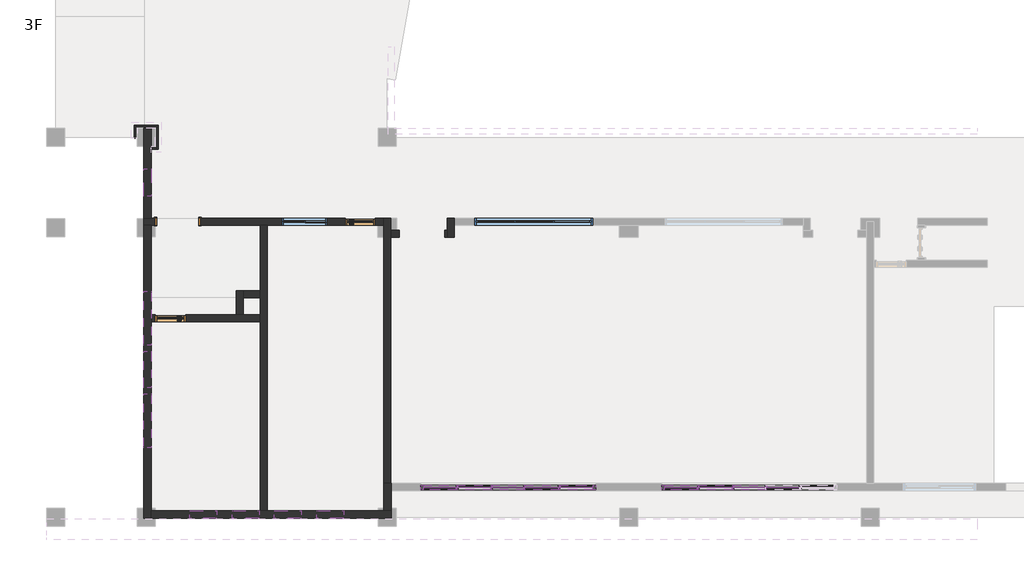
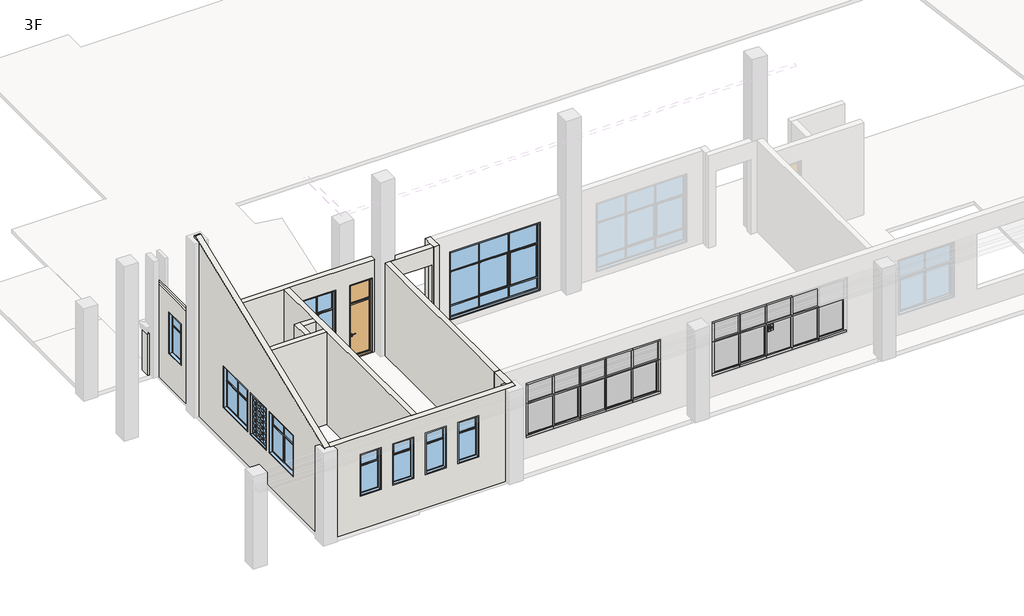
# One storey, part 1 of 9: 44 members, 16 walls, 15 plates, 10 windows, 3 doors.
"""IFC4 building model written with IfcOpenShell, lengths in millimetres."""

from ifc_helpers import new_model, si_unit, frame, origin, place, context, project, spatial, polyline, outline, extrude, faceted_brep, transform, mapped, element, save
from components import dk1_dk1_83e99b34, m2_m2_dfb05117, m3_m3_68d9ec90, member_7564be38, member_1f4d75dd, member_0b7842ad, member_163d5e45, member_ffafc35e, member_2b011958, member_9c26cac3, member_6c42befd, member_a374fdad, plate_f4dba16c, plate_1cc4df2b, plate_4fa5932a, plate_00f9c624, plate_18a10205, plate_942ffe46, window_f5fa71fb, lc2_lc2_631be3da, lc2_lc2_cf207e28, lc5_lc5_223d64ff, lc6_lc6_03a52bd1, lc7_lc7_62699857, lc7a_lc7a_525a1188

model = new_model("IFC4")

# Units and contexts
model_context = context("Model", 3, world=origin())
ifc_project = project(units=[si_unit("LENGTHUNIT", "METRE", prefix="MILLI")], contexts=[model_context])

# Site, building, storey
site = spatial("IfcSite", under=ifc_project)
building = spatial("IfcBuilding", under=site)
storey = spatial("IfcBuildingStorey", under=building, Name="3F", Elevation=8400.0)

# Doors
placement = place(None, origin())
dk1_dk1_shape = dk1_dk1_83e99b34(model_context)
element("IfcDoor", 1, ObjectType="DK1 : DK1", at=placement, inside=storey, context=model_context, shape_type="MappedRepresentation", body=[
    mapped(dk1_dk1_shape, transform((4050.0, 9800.276907, 8400.0), x_axis=(-1.0, 0.0, 0.0), y_axis=(0.0, -1.0, 0.0), z_axis=(0.0, 0.0, 1.0))),
])
m2_m2_shape = m2_m2_dfb05117(model_context)
element("IfcDoor", 2, ObjectType="M2 : M2", at=placement, inside=storey, context=model_context, shape_type="MappedRepresentation", body=[
    mapped(m2_m2_shape, transform((10100.0, 9800.276907, 8400.0), x_axis=(-1.0, 0.0, 0.0), y_axis=(0.0, -1.0, 0.0), z_axis=(0.0, 0.0, 1.0))),
])
m3_m3_shape = m3_m3_68d9ec90(model_context)
element("IfcDoor", 3, ObjectType="M3 : M3", at=placement, inside=storey, context=model_context, shape_type="MappedRepresentation", body=[
    mapped(m3_m3_shape, transform((3809.9999988, 6600.7769017, 8400.0), x_axis=(1.0, 0.0, 0.0), y_axis=(0.0, 1.0, 0.0), z_axis=(0.0, 0.0, 1.0))),
])

# Members
member_shape = member_7564be38(model_context)
element("IfcMember", 4, ObjectType="矩形竖梃 : 教学楼 – 矩形竖梃 – 100x150mm", at=placement, inside=storey, context=model_context, shape_type="MappedRepresentation", body=[
    mapped(member_shape, transform((17899.9999993, 990.0, 11800.0), x_axis=(0.0, 0.0, 1.0), y_axis=(0.0, -1.0, 0.0), z_axis=(1.0, 0.0, 0.0))),
])
element("IfcMember", 5, ObjectType="矩形竖梃 : 教学楼 – 矩形竖梃 – 100x150mm", at=placement, inside=storey, context=model_context, shape_type="MappedRepresentation", body=[
    mapped(member_shape, transform((12099.9999993, 990.0, 9300.0), x_axis=(0.0, 0.0, -1.0), y_axis=(0.0, -1.0, 0.0), z_axis=(-1.0, 0.0, 0.0))),
])
element("IfcMember", 6, ObjectType="矩形竖梃 : 教学楼 – 矩形竖梃 – 100x150mm", at=placement, inside=storey, context=model_context, shape_type="MappedRepresentation", body=[
    mapped(member_shape, transform((20100.0, 990.0, 9300.0), x_axis=(0.0, 0.0, -1.0), y_axis=(0.0, -1.0, 0.0), z_axis=(-1.0, 0.0, 0.0))),
])
member_2_shape = member_1f4d75dd(model_context)
element("IfcMember", 7, ObjectType="矩形竖梃 : 教学楼 – 矩形竖梃 – 50x150mm", at=placement, inside=storey, context=model_context, shape_type="MappedRepresentation", body=[
    mapped(member_2_shape, transform((14449.9999993, 990.0, 9400.0), x_axis=(1.0, 0.0, 0.0), y_axis=(0.0, -1.0, 0.0), z_axis=(0.0, 0.0, -1.0))),
])
element("IfcMember", 8, ObjectType="矩形竖梃 : 教学楼 – 矩形竖梃 – 50x150mm", at=placement, inside=storey, context=model_context, shape_type="MappedRepresentation", body=[
    mapped(member_2_shape, transform((15549.9999993, 990.0, 9400.0), x_axis=(1.0, 0.0, 0.0), y_axis=(0.0, -1.0, 0.0), z_axis=(0.0, 0.0, -1.0))),
])
element("IfcMember", 9, ObjectType="矩形竖梃 : 教学楼 – 矩形竖梃 – 50x150mm", at=placement, inside=storey, context=model_context, shape_type="MappedRepresentation", body=[
    mapped(member_2_shape, transform((22450.0, 990.0, 9400.0), x_axis=(1.0, 0.0, 0.0), y_axis=(0.0, -1.0, 0.0), z_axis=(0.0, 0.0, -1.0))),
])
element("IfcMember", 10, ObjectType="矩形竖梃 : 教学楼 – 矩形竖梃 – 50x150mm", at=placement, inside=storey, context=model_context, shape_type="MappedRepresentation", body=[
    mapped(member_2_shape, transform((23550.0, 990.0, 9400.0), x_axis=(1.0, 0.0, 0.0), y_axis=(0.0, -1.0, 0.0), z_axis=(0.0, 0.0, -1.0))),
])
member_3_shape = member_0b7842ad(model_context)
element("IfcMember", 11, ObjectType="矩形竖梃 : 教学楼 – 矩形竖梃 – 50x150mm", at=placement, inside=storey, context=model_context, shape_type="MappedRepresentation", body=[
    mapped(member_3_shape, transform((13299.9999993, 990.0, 10850.0), x_axis=(0.0, 0.0, 1.0), y_axis=(0.0, -1.0, 0.0), z_axis=(1.0, 0.0, 0.0))),
])
element("IfcMember", 12, ObjectType="矩形竖梃 : 教学楼 – 矩形竖梃 – 50x150mm", at=placement, inside=storey, context=model_context, shape_type="MappedRepresentation", body=[
    mapped(member_3_shape, transform((21300.0, 990.0, 10850.0), x_axis=(0.0, 0.0, 1.0), y_axis=(0.0, -1.0, 0.0), z_axis=(1.0, 0.0, 0.0))),
])
member_4_shape = member_163d5e45(model_context)
element("IfcMember", 13, ObjectType="矩形竖梃 : 教学楼 – 矩形竖梃 – 50x150mm", at=placement, inside=storey, context=model_context, shape_type="MappedRepresentation", body=[
    mapped(member_4_shape, transform((14449.9999993, 990.0, 10850.0), x_axis=(0.0, 0.0, 1.0), y_axis=(0.0, -1.0, 0.0), z_axis=(1.0, 0.0, 0.0))),
])
element("IfcMember", 14, ObjectType="矩形竖梃 : 教学楼 – 矩形竖梃 – 50x150mm", at=placement, inside=storey, context=model_context, shape_type="MappedRepresentation", body=[
    mapped(member_4_shape, transform((16699.9999993, 990.0, 10850.0), x_axis=(0.0, 0.0, 1.0), y_axis=(0.0, -1.0, 0.0), z_axis=(1.0, 0.0, 0.0))),
])
element("IfcMember", 15, ObjectType="矩形竖梃 : 教学楼 – 矩形竖梃 – 50x150mm", at=placement, inside=storey, context=model_context, shape_type="MappedRepresentation", body=[
    mapped(member_4_shape, transform((22450.0, 990.0, 10850.0), x_axis=(0.0, 0.0, 1.0), y_axis=(0.0, -1.0, 0.0), z_axis=(1.0, 0.0, 0.0))),
])
element("IfcMember", 16, ObjectType="矩形竖梃 : 教学楼 – 矩形竖梃 – 50x150mm", at=placement, inside=storey, context=model_context, shape_type="MappedRepresentation", body=[
    mapped(member_4_shape, transform((24700.0, 990.0, 10850.0), x_axis=(0.0, 0.0, 1.0), y_axis=(0.0, -1.0, 0.0), z_axis=(1.0, 0.0, 0.0))),
])
element("IfcMember", 17, ObjectType="矩形竖梃 : 教学楼 – 矩形竖梃 – 50x150mm", at=placement, inside=storey, context=model_context, shape_type="MappedRepresentation", body=[
    mapped(member_3_shape, transform((15549.9999993, 990.0, 10850.0), x_axis=(0.0, 0.0, 1.0), y_axis=(0.0, -1.0, 0.0), z_axis=(1.0, 0.0, 0.0))),
])
element("IfcMember", 18, ObjectType="矩形竖梃 : 教学楼 – 矩形竖梃 – 50x150mm", at=placement, inside=storey, context=model_context, shape_type="MappedRepresentation", body=[
    mapped(member_3_shape, transform((23550.0, 990.0, 10850.0), x_axis=(0.0, 0.0, 1.0), y_axis=(0.0, -1.0, 0.0), z_axis=(1.0, 0.0, 0.0))),
])
element("IfcMember", 19, ObjectType="矩形竖梃 : 教学楼 – 矩形竖梃 – 50x150mm", at=placement, inside=storey, context=model_context, shape_type="MappedRepresentation", body=[
    mapped(member_3_shape, transform((17799.9999993, 990.0, 10850.0), x_axis=(0.0, 0.0, 1.0), y_axis=(0.0, -1.0, 0.0), z_axis=(1.0, 0.0, 0.0))),
])
member_5_shape = member_ffafc35e(model_context)
element("IfcMember", 20, ObjectType="矩形竖梃 : 教学楼 – 矩形竖梃 – 100x150mm", at=placement, inside=storey, context=model_context, shape_type="MappedRepresentation", body=[
    mapped(member_5_shape, transform((13299.9999993, 990.0, 9300.0), x_axis=(0.0, 0.0, -1.0), y_axis=(0.0, -1.0, 0.0), z_axis=(-1.0, 0.0, 0.0))),
])
element("IfcMember", 21, ObjectType="矩形竖梃 : 教学楼 – 矩形竖梃 – 100x150mm", at=placement, inside=storey, context=model_context, shape_type="MappedRepresentation", body=[
    mapped(member_5_shape, transform((21300.0, 990.0, 9300.0), x_axis=(0.0, 0.0, -1.0), y_axis=(0.0, -1.0, 0.0), z_axis=(-1.0, 0.0, 0.0))),
])
member_6_shape = member_2b011958(model_context)
element("IfcMember", 22, ObjectType="矩形竖梃 : 教学楼 – 矩形竖梃 – 100x150mm", at=placement, inside=storey, context=model_context, shape_type="MappedRepresentation", body=[
    mapped(member_6_shape, transform((14449.9999993, 990.0, 9300.0), x_axis=(0.0, 0.0, -1.0), y_axis=(0.0, -1.0, 0.0), z_axis=(-1.0, 0.0, 0.0))),
])
element("IfcMember", 23, ObjectType="矩形竖梃 : 教学楼 – 矩形竖梃 – 100x150mm", at=placement, inside=storey, context=model_context, shape_type="MappedRepresentation", body=[
    mapped(member_6_shape, transform((22450.0, 990.0, 9300.0), x_axis=(0.0, 0.0, -1.0), y_axis=(0.0, -1.0, 0.0), z_axis=(-1.0, 0.0, 0.0))),
])
element("IfcMember", 24, ObjectType="矩形竖梃 : 教学楼 – 矩形竖梃 – 100x150mm", at=placement, inside=storey, context=model_context, shape_type="MappedRepresentation", body=[
    mapped(member_5_shape, transform((15549.9999993, 990.0, 9300.0), x_axis=(0.0, 0.0, -1.0), y_axis=(0.0, -1.0, 0.0), z_axis=(-1.0, 0.0, 0.0))),
])
element("IfcMember", 25, ObjectType="矩形竖梃 : 教学楼 – 矩形竖梃 – 100x150mm", at=placement, inside=storey, context=model_context, shape_type="MappedRepresentation", body=[
    mapped(member_5_shape, transform((23550.0, 990.0, 9300.0), x_axis=(0.0, 0.0, -1.0), y_axis=(0.0, -1.0, 0.0), z_axis=(-1.0, 0.0, 0.0))),
])
element("IfcMember", 26, ObjectType="矩形竖梃 : 教学楼 – 矩形竖梃 – 100x150mm", at=placement, inside=storey, context=model_context, shape_type="MappedRepresentation", body=[
    mapped(member_shape, transform((16699.9999993, 990.0, 9300.0), x_axis=(0.0, 0.0, -1.0), y_axis=(0.0, -1.0, 0.0), z_axis=(-1.0, 0.0, 0.0))),
])
element("IfcMember", 27, ObjectType="矩形竖梃 : 教学楼 – 矩形竖梃 – 100x150mm", at=placement, inside=storey, context=model_context, shape_type="MappedRepresentation", body=[
    mapped(member_shape, transform((24700.0, 990.0, 9300.0), x_axis=(0.0, 0.0, -1.0), y_axis=(0.0, -1.0, 0.0), z_axis=(-1.0, 0.0, 0.0))),
])
element("IfcMember", 28, ObjectType="矩形竖梃 : 教学楼 – 矩形竖梃 – 100x150mm", at=placement, inside=storey, context=model_context, shape_type="MappedRepresentation", body=[
    mapped(member_shape, transform((13299.9999993, 990.0, 11800.0), x_axis=(0.0, 0.0, 1.0), y_axis=(0.0, -1.0, 0.0), z_axis=(1.0, 0.0, 0.0))),
])
element("IfcMember", 29, ObjectType="矩形竖梃 : 教学楼 – 矩形竖梃 – 100x150mm", at=placement, inside=storey, context=model_context, shape_type="MappedRepresentation", body=[
    mapped(member_shape, transform((21300.0, 990.0, 11800.0), x_axis=(0.0, 0.0, 1.0), y_axis=(0.0, -1.0, 0.0), z_axis=(1.0, 0.0, 0.0))),
])
element("IfcMember", 30, ObjectType="矩形竖梃 : 教学楼 – 矩形竖梃 – 100x150mm", at=placement, inside=storey, context=model_context, shape_type="MappedRepresentation", body=[
    mapped(member_5_shape, transform((14449.9999993, 990.0, 11800.0), x_axis=(0.0, 0.0, 1.0), y_axis=(0.0, -1.0, 0.0), z_axis=(1.0, 0.0, 0.0))),
])
element("IfcMember", 31, ObjectType="矩形竖梃 : 教学楼 – 矩形竖梃 – 100x150mm", at=placement, inside=storey, context=model_context, shape_type="MappedRepresentation", body=[
    mapped(member_5_shape, transform((16699.9999993, 990.0, 11800.0), x_axis=(0.0, 0.0, 1.0), y_axis=(0.0, -1.0, 0.0), z_axis=(1.0, 0.0, 0.0))),
])
element("IfcMember", 32, ObjectType="矩形竖梃 : 教学楼 – 矩形竖梃 – 100x150mm", at=placement, inside=storey, context=model_context, shape_type="MappedRepresentation", body=[
    mapped(member_5_shape, transform((22450.0, 990.0, 11800.0), x_axis=(0.0, 0.0, 1.0), y_axis=(0.0, -1.0, 0.0), z_axis=(1.0, 0.0, 0.0))),
])
element("IfcMember", 33, ObjectType="矩形竖梃 : 教学楼 – 矩形竖梃 – 100x150mm", at=placement, inside=storey, context=model_context, shape_type="MappedRepresentation", body=[
    mapped(member_6_shape, transform((15549.9999993, 990.0, 11800.0), x_axis=(0.0, 0.0, 1.0), y_axis=(0.0, -1.0, 0.0), z_axis=(1.0, 0.0, 0.0))),
])
element("IfcMember", 34, ObjectType="矩形竖梃 : 教学楼 – 矩形竖梃 – 100x150mm", at=placement, inside=storey, context=model_context, shape_type="MappedRepresentation", body=[
    mapped(member_6_shape, transform((23550.0, 990.0, 11800.0), x_axis=(0.0, 0.0, 1.0), y_axis=(0.0, -1.0, 0.0), z_axis=(1.0, 0.0, 0.0))),
])
member_7_shape = member_9c26cac3(model_context)
element("IfcMember", 35, ObjectType="矩形竖梃 : 教学楼 – 矩形竖梃 – 50x150mm", at=placement, inside=storey, context=model_context, shape_type="MappedRepresentation", body=[
    mapped(member_7_shape, transform((13299.9999993, 990.0, 10875.0), x_axis=(1.0, 0.0, 0.0), y_axis=(0.0, -1.0, 0.0), z_axis=(0.0, 0.0, -1.0))),
])
element("IfcMember", 36, ObjectType="矩形竖梃 : 教学楼 – 矩形竖梃 – 50x150mm", at=placement, inside=storey, context=model_context, shape_type="MappedRepresentation", body=[
    mapped(member_7_shape, transform((14449.9999993, 990.0, 10875.0), x_axis=(1.0, 0.0, 0.0), y_axis=(0.0, -1.0, 0.0), z_axis=(0.0, 0.0, -1.0))),
])
element("IfcMember", 37, ObjectType="矩形竖梃 : 教学楼 – 矩形竖梃 – 50x150mm", at=placement, inside=storey, context=model_context, shape_type="MappedRepresentation", body=[
    mapped(member_7_shape, transform((15549.9999993, 990.0, 10875.0), x_axis=(1.0, 0.0, 0.0), y_axis=(0.0, -1.0, 0.0), z_axis=(0.0, 0.0, -1.0))),
])
element("IfcMember", 38, ObjectType="矩形竖梃 : 教学楼 – 矩形竖梃 – 50x150mm", at=placement, inside=storey, context=model_context, shape_type="MappedRepresentation", body=[
    mapped(member_7_shape, transform((16699.9999993, 990.0, 10875.0), x_axis=(1.0, 0.0, 0.0), y_axis=(0.0, -1.0, 0.0), z_axis=(0.0, 0.0, -1.0))),
])
element("IfcMember", 39, ObjectType="矩形竖梃 : 教学楼 – 矩形竖梃 – 50x150mm", at=placement, inside=storey, context=model_context, shape_type="MappedRepresentation", body=[
    mapped(member_7_shape, transform((21300.0, 990.0, 10875.0), x_axis=(1.0, 0.0, 0.0), y_axis=(0.0, -1.0, 0.0), z_axis=(0.0, 0.0, -1.0))),
])
element("IfcMember", 40, ObjectType="矩形竖梃 : 教学楼 – 矩形竖梃 – 50x150mm", at=placement, inside=storey, context=model_context, shape_type="MappedRepresentation", body=[
    mapped(member_7_shape, transform((22450.0, 990.0, 10875.0), x_axis=(1.0, 0.0, 0.0), y_axis=(0.0, -1.0, 0.0), z_axis=(0.0, 0.0, -1.0))),
])
element("IfcMember", 41, ObjectType="矩形竖梃 : 教学楼 – 矩形竖梃 – 50x150mm", at=placement, inside=storey, context=model_context, shape_type="MappedRepresentation", body=[
    mapped(member_7_shape, transform((23550.0, 990.0, 10875.0), x_axis=(1.0, 0.0, 0.0), y_axis=(0.0, -1.0, 0.0), z_axis=(0.0, 0.0, -1.0))),
])
member_8_shape = member_6c42befd(model_context)
element("IfcMember", 42, ObjectType="矩形竖梃 : 教学楼 – 矩形竖梃 – 100x150mm", at=placement, inside=storey, context=model_context, shape_type="MappedRepresentation", body=[
    mapped(member_8_shape, transform((12099.9999993, 990.0, 11700.0), x_axis=(-1.0, 0.0, 0.0), y_axis=(0.0, -1.0, 0.0), z_axis=(0.0, 0.0, 1.0))),
])
element("IfcMember", 43, ObjectType="矩形竖梃 : 教学楼 – 矩形竖梃 – 100x150mm", at=placement, inside=storey, context=model_context, shape_type="MappedRepresentation", body=[
    mapped(member_8_shape, transform((20100.0, 990.0, 11700.0), x_axis=(-1.0, 0.0, 0.0), y_axis=(0.0, -1.0, 0.0), z_axis=(0.0, 0.0, 1.0))),
])
member_9_shape = member_a374fdad(model_context)
element("IfcMember", 44, ObjectType="矩形竖梃 : 教学楼 – 矩形竖梃 – 100x150mm", at=placement, inside=storey, context=model_context, shape_type="MappedRepresentation", body=[
    mapped(member_9_shape, transform((17899.9999993, 990.0, 9400.0), x_axis=(1.0, 0.0, 0.0), y_axis=(0.0, -1.0, 0.0), z_axis=(0.0, 0.0, -1.0))),
])
element("IfcMember", 45, ObjectType="矩形竖梃 : 教学楼 – 矩形竖梃 – 100x150mm", at=placement, inside=storey, context=model_context, shape_type="MappedRepresentation", body=[
    mapped(member_8_shape, transform((17899.9999993, 990.0, 10850.0), x_axis=(1.0, 0.0, 0.0), y_axis=(0.0, -1.0, 0.0), z_axis=(0.0, 0.0, -1.0))),
])
element("IfcMember", 46, ObjectType="矩形竖梃 : 教学楼 – 矩形竖梃 – 100x150mm", at=placement, inside=storey, context=model_context, shape_type="MappedRepresentation", body=[
    mapped(member_9_shape, transform((12099.9999993, 990.0, 10850.0), x_axis=(-1.0, 0.0, 0.0), y_axis=(0.0, -1.0, 0.0), z_axis=(0.0, 0.0, 1.0))),
])
element("IfcMember", 47, ObjectType="矩形竖梃 : 教学楼 – 矩形竖梃 – 100x150mm", at=placement, inside=storey, context=model_context, shape_type="MappedRepresentation", body=[
    mapped(member_9_shape, transform((20100.0, 990.0, 10850.0), x_axis=(-1.0, 0.0, 0.0), y_axis=(0.0, -1.0, 0.0), z_axis=(0.0, 0.0, 1.0))),
])

# Plates
plate_shape = plate_f4dba16c(model_context)
element("IfcPlate", 48, ObjectType="系统嵌板 : 玻璃", at=placement, inside=storey, context=model_context, shape_type="MappedRepresentation", body=[
    mapped(plate_shape, transform((14999.9999993, 990.0, 9400.0), x_axis=(1.0, 0.0, 0.0), y_axis=(0.0, 1.0, 0.0), z_axis=(0.0, 0.0, 1.0))),
])
plate_2_shape = plate_1cc4df2b(model_context)
element("IfcPlate", 49, ObjectType="系统嵌板 : 玻璃", at=placement, inside=storey, context=model_context, shape_type="MappedRepresentation", body=[
    mapped(plate_2_shape, transform((12737.4999993, 990.0, 10875.0), x_axis=(1.0, 0.0, 0.0), y_axis=(0.0, 1.0, 0.0), z_axis=(0.0, 0.0, 1.0))),
])
element("IfcPlate", 50, ObjectType="系统嵌板 : 玻璃", at=placement, inside=storey, context=model_context, shape_type="MappedRepresentation", body=[
    mapped(plate_2_shape, transform((17262.4999993, 990.0, 10875.0), x_axis=(1.0, 0.0, 0.0), y_axis=(0.0, 1.0, 0.0), z_axis=(0.0, 0.0, 1.0))),
])
element("IfcPlate", 51, ObjectType="系统嵌板 : 玻璃", at=placement, inside=storey, context=model_context, shape_type="MappedRepresentation", body=[
    mapped(plate_2_shape, transform((20737.5, 990.0, 10875.0), x_axis=(1.0, 0.0, 0.0), y_axis=(0.0, 1.0, 0.0), z_axis=(0.0, 0.0, 1.0))),
])
plate_3_shape = plate_4fa5932a(model_context)
element("IfcPlate", 52, ObjectType="系统嵌板 : 玻璃", at=placement, inside=storey, context=model_context, shape_type="MappedRepresentation", body=[
    mapped(plate_3_shape, transform((13874.9999993, 990.0, 10875.0), x_axis=(1.0, 0.0, 0.0), y_axis=(0.0, 1.0, 0.0), z_axis=(0.0, 0.0, 1.0))),
])
element("IfcPlate", 53, ObjectType="系统嵌板 : 玻璃", at=placement, inside=storey, context=model_context, shape_type="MappedRepresentation", body=[
    mapped(plate_3_shape, transform((16124.9999993, 990.0, 10875.0), x_axis=(1.0, 0.0, 0.0), y_axis=(0.0, 1.0, 0.0), z_axis=(0.0, 0.0, 1.0))),
])
element("IfcPlate", 54, ObjectType="系统嵌板 : 玻璃", at=placement, inside=storey, context=model_context, shape_type="MappedRepresentation", body=[
    mapped(plate_3_shape, transform((21875.0, 990.0, 10875.0), x_axis=(1.0, 0.0, 0.0), y_axis=(0.0, 1.0, 0.0), z_axis=(0.0, 0.0, 1.0))),
])
element("IfcPlate", 55, ObjectType="系统嵌板 : 玻璃", at=placement, inside=storey, context=model_context, shape_type="MappedRepresentation", body=[
    mapped(plate_3_shape, transform((24125.0, 990.0, 10875.0), x_axis=(1.0, 0.0, 0.0), y_axis=(0.0, 1.0, 0.0), z_axis=(0.0, 0.0, 1.0))),
])
plate_4_shape = plate_00f9c624(model_context)
element("IfcPlate", 56, ObjectType="系统嵌板 : 玻璃", at=placement, inside=storey, context=model_context, shape_type="MappedRepresentation", body=[
    mapped(plate_4_shape, transform((14999.9999993, 990.0, 10875.0), x_axis=(1.0, 0.0, 0.0), y_axis=(0.0, 1.0, 0.0), z_axis=(0.0, 0.0, 1.0))),
])
element("IfcPlate", 57, ObjectType="系统嵌板 : 玻璃", at=placement, inside=storey, context=model_context, shape_type="MappedRepresentation", body=[
    mapped(plate_4_shape, transform((23000.0, 990.0, 10875.0), x_axis=(1.0, 0.0, 0.0), y_axis=(0.0, 1.0, 0.0), z_axis=(0.0, 0.0, 1.0))),
])
plate_5_shape = plate_18a10205(model_context)
element("IfcPlate", 58, ObjectType="教学楼 - 窗嵌板：双扇推拉窗 : 教学楼 - 窗嵌板：双扇推拉窗", at=placement, inside=storey, context=model_context, shape_type="MappedRepresentation", body=[
    mapped(plate_5_shape, transform((13312.4999993, 990.0, 9400.0), x_axis=(1.0, 0.0, 0.0), y_axis=(0.0, 1.0, 0.0), z_axis=(0.0, 0.0, 1.0))),
])
element("IfcPlate", 59, ObjectType="教学楼 - 窗嵌板：双扇推拉窗 : 教学楼 - 窗嵌板：双扇推拉窗", at=placement, inside=storey, context=model_context, shape_type="MappedRepresentation", body=[
    mapped(plate_5_shape, transform((21312.5, 990.0, 9400.0), x_axis=(1.0, 0.0, 0.0), y_axis=(0.0, 1.0, 0.0), z_axis=(0.0, 0.0, 1.0))),
])
element("IfcPlate", 60, ObjectType="教学楼 - 窗嵌板：双扇推拉窗 : 教学楼 - 窗嵌板：双扇推拉窗", at=placement, inside=storey, context=model_context, shape_type="MappedRepresentation", body=[
    mapped(plate_5_shape, transform((16687.4999993, 990.0, 9400.0), x_axis=(1.0, 0.0, 0.0), y_axis=(0.0, 1.0, 0.0), z_axis=(0.0, 0.0, 1.0))),
])
element("IfcPlate", 61, ObjectType="教学楼 - 窗嵌板：双扇推拉窗 : 教学楼 - 窗嵌板：双扇推拉窗", at=placement, inside=storey, context=model_context, shape_type="MappedRepresentation", body=[
    mapped(plate_5_shape, transform((24687.5, 990.0, 9400.0), x_axis=(1.0, 0.0, 0.0), y_axis=(0.0, 1.0, 0.0), z_axis=(0.0, 0.0, 1.0))),
])
plate_6_shape = plate_942ffe46(model_context)
element("IfcPlate", 62, ObjectType="教学楼 - 窗嵌板：外贴消防通道 : 教学楼 - 窗嵌板：外贴消防通道", at=placement, inside=storey, context=model_context, shape_type="MappedRepresentation", body=[
    mapped(plate_6_shape, transform((23000.0, 990.0, 9400.0), x_axis=(1.0, 0.0, 0.0), y_axis=(0.0, 1.0, 0.0), z_axis=(0.0, 0.0, 1.0))),
])

# Walls
element("IfcWall", 63, ObjectType="教学楼 – 饰面砖外墙 – 200mm", at=placement, inside=storey, context=model_context, shape_type="Brep", body=[
    faceted_brep([(2917.0000002, 12900.0, 8400.0), (2917.0000002, 12300.0, 8400.0), (2917.0000002, 9917.276907, 8400.0), (2917.0000002, 9917.276907, 12600.0), (2917.0000002, 12900.0, 12600.0), (2917.0000002, 10649.6954608, 11800.0), (2917.0000002, 10649.6954608, 9900.0), (2917.0000002, 11549.6954608, 9900.0), (2917.0000002, 11549.6954608, 11800.0), (3167.0000002, 9917.276907, 8400.0), (3167.0000002, 12200.0, 8400.0), (3167.0000002, 12250.0, 8400.0), (3167.0000002, 12300.0, 8400.0), (3167.0000002, 12900.0, 8400.0), (3167.0000002, 12900.0, 12480.0), (3167.0000002, 9917.276907, 12480.0), (3167.0000002, 10649.6954608, 9900.0), (3167.0000002, 10649.6954608, 11800.0), (3167.0000002, 11549.6954608, 11800.0), (3167.0000002, 11549.6954608, 9900.0), (3000.0, 9917.276907, 12600.0), (3000.0, 12900.0, 12600.0), (3000.0, 12900.0, 12480.0), (3000.0, 9917.276907, 12480.0)], [[[0, 1, 2, 3, 4], [5, 6, 7, 8]], [[9, 10, 11, 12, 13, 14, 15], [16, 17, 18, 19]], [[2, 1, 0, 13, 12, 11, 10, 9]], [[4, 3, 20, 21]], [[0, 4, 21, 22, 14, 13]], [[17, 16, 6, 5]], [[18, 17, 5, 8]], [[19, 18, 8, 7]], [[16, 19, 7, 6]], [[3, 2, 9, 15, 23, 20]], [[22, 23, 15, 14]], [[23, 22, 21, 20]]]),
])
element("IfcWall", 64, ObjectType="教学楼 – 饰面砖外墙 – 200mm", at=placement, inside=storey, context=model_context, shape_type="Brep", body=[
    faceted_brep([(3167.0000002, -32.6954639, 8400.0), (3300.0, -32.6954639, 8400.0), (10700.0, -32.6954639, 8400.0), (11133.0, -32.6954639, 8400.0), (11133.0, -32.6954639, 12600.0), (10700.0, -32.6954639, 12600.0), (3300.0, -32.6954639, 12600.0), (3167.0000002, -32.6954639, 12600.0), (3167.0000002, -32.6954639, 12586.8799436), (9549.9999969, -32.6954639, 9900.0), (8649.9999969, -32.6954639, 9900.0), (8649.9999969, -32.6954639, 11800.0), (9549.9999969, -32.6954639, 11800.0), (8149.9999969, -32.6954639, 9900.0), (7249.9999969, -32.6954639, 9900.0), (7249.9999969, -32.6954639, 11800.0), (8149.9999969, -32.6954639, 11800.0), (6749.9999993, -32.6954639, 9900.0), (5849.9999993, -32.6954639, 9900.0), (5849.9999993, -32.6954639, 11800.0), (6749.9999993, -32.6954639, 11800.0), (5349.9999993, -32.6954639, 9900.0), (4449.9999993, -32.6954639, 9900.0), (4449.9999993, -32.6954639, 11800.0), (5349.9999993, -32.6954639, 11800.0), (3167.0000002, 217.3045361, 8400.0), (3167.0000002, 217.3045361, 12600.0), (3300.0, 217.3045361, 12600.0), (6783.0000003, 217.3045361, 12600.0), (7017.0000003, 217.3045361, 12600.0), (10700.0, 217.3045361, 12600.0), (10883.0, 217.3045361, 12600.0), (11133.0, 217.3045361, 12600.0), (11133.0, 217.3045361, 8400.0), (10883.0, 217.3045361, 8400.0), (10700.0, 217.3045361, 8400.0), (7017.0000003, 217.3045361, 8400.0), (6783.0000003, 217.3045361, 8400.0), (3300.0, 217.3045361, 8400.0), (9549.9999969, 217.3045361, 9900.0), (9549.9999969, 217.3045361, 11800.0), (8649.9999969, 217.3045361, 11800.0), (8649.9999969, 217.3045361, 9900.0), (8149.9999969, 217.3045361, 9900.0), (8149.9999969, 217.3045361, 11800.0), (7249.9999969, 217.3045361, 11800.0), (7249.9999969, 217.3045361, 9900.0), (6749.9999993, 217.3045361, 9900.0), (6749.9999993, 217.3045361, 11800.0), (5849.9999993, 217.3045361, 11800.0), (5849.9999993, 217.3045361, 9900.0), (5349.9999993, 217.3045361, 9900.0), (5349.9999993, 217.3045361, 11800.0), (4449.9999993, 217.3045361, 11800.0), (4449.9999993, 217.3045361, 9900.0), (3167.0000002, 0.1070174, 12600.0)], [[[0, 1, 2, 3, 4, 5, 6, 7, 8], [9, 10, 11, 12], [13, 14, 15, 16], [17, 18, 19, 20], [21, 22, 23, 24]], [[25, 26, 27, 28, 29, 30, 31, 32, 33, 34, 35, 36, 37, 38], [39, 40, 41, 42], [43, 44, 45, 46], [47, 48, 49, 50], [51, 52, 53, 54]], [[3, 2, 1, 0, 25, 38, 37, 36, 35, 34, 33]], [[7, 6, 5, 4, 32, 31, 30, 29, 28, 27, 26, 55]], [[0, 8, 7, 55, 26, 25]], [[4, 3, 33, 32]], [[40, 39, 9, 12]], [[41, 40, 12, 11]], [[42, 41, 11, 10]], [[39, 42, 10, 9]], [[44, 43, 13, 16]], [[45, 44, 16, 15]], [[46, 45, 15, 14]], [[43, 46, 14, 13]], [[48, 47, 17, 20]], [[49, 48, 20, 19]], [[50, 49, 19, 18]], [[47, 50, 18, 17]], [[52, 51, 21, 24]], [[53, 52, 24, 23]], [[54, 53, 23, 22]], [[51, 54, 22, 21]]]),
])
element("IfcWall", 65, ObjectType="教学楼 – 饰面砖外墙 – 200mm", at=placement, inside=storey, context=model_context, shape_type="Brep", body=[
    faceted_brep([(11133.0, 217.3045361, 8400.0), (11133.0, 300.0, 8400.0), (11133.0, 875.0, 8400.0), (11133.0, 1125.0, 8400.0), (11133.0, 1125.0, 12600.0), (11133.0, 875.0, 12600.0), (11133.0, 300.0, 12600.0), (11133.0, 217.3045361, 12600.0), (10883.0, 217.3045361, 8400.0), (10883.0, 217.3045361, 12600.0), (10883.0, 300.0, 12600.0), (10883.0, 1125.0, 12600.0), (10883.0, 1125.0, 8400.0), (10883.0, 300.0, 8400.0), (11117.0, 1125.0, 8400.0), (11117.0, 1125.0, 12600.0)], [[[0, 1, 2, 3, 4, 5, 6, 7]], [[8, 9, 10, 11, 12, 13]], [[3, 2, 1, 0, 8, 13, 12, 14]], [[7, 6, 5, 4, 15, 11, 10, 9]], [[0, 7, 9, 8]], [[4, 3, 14, 12, 11, 15]]]),
])
element("IfcWall", 66, ObjectType="教学楼 – 涂料内墙 – 200mm", at=placement, inside=storey, context=model_context, shape_type="Brep", body=[
    faceted_brep([(11117.0, 1125.0, 8400.0), (11117.0, 9283.0, 8400.0), (11117.0, 9283.2768988, 8400.0), (11117.0, 9517.2768988, 8400.0), (11117.0, 9917.0, 8400.0), (11117.0, 9917.276907, 8400.0), (11117.0, 9917.276907, 12600.0), (11117.0, 9917.0, 12600.0), (11117.0, 9517.2768988, 12600.0), (11117.0, 9283.2768988, 12600.0), (11117.0, 9283.0, 12600.0), (11117.0, 1125.0, 12600.0), (10883.0, 1125.0, 8400.0), (10883.0, 1125.0, 12600.0), (10883.0, 9283.0, 12600.0), (10883.0, 9683.276907, 12600.0), (10883.0, 9917.276907, 12600.0), (10883.0, 9917.276907, 8400.0), (10883.0, 9683.276907, 8400.0), (10883.0, 9283.0, 8400.0)], [[[0, 1, 2, 3, 4, 5, 6, 7, 8, 9, 10, 11]], [[12, 13, 14, 15, 16, 17, 18, 19]], [[5, 4, 3, 2, 1, 0, 12, 19, 18, 17]], [[11, 10, 9, 8, 7, 6, 16, 15, 14, 13]], [[6, 5, 17, 16]], [[0, 11, 13, 12]]]),
])
element("IfcWall", 67, ObjectType="教学楼 – 涂料内墙 – 200mm", at=placement, inside=storey, context=model_context, shape_type="Brep", body=[
    faceted_brep([(7017.0000003, 217.3045361, 8400.0), (7017.0000003, 9683.276907, 8400.0), (7017.0000003, 9683.276907, 12600.0), (7017.0000003, 217.3045361, 12600.0), (6783.0000003, 217.3045361, 8400.0), (6783.0000003, 217.3045361, 12600.0), (6783.0000003, 6483.7769017, 12600.0), (6783.0000003, 6717.7769017, 12600.0), (6783.0000003, 7283.7768988, 12600.0), (6783.0000003, 7517.7768988, 12600.0), (6783.0000003, 9683.276907, 12600.0), (6783.0000003, 9683.276907, 8400.0), (6783.0000003, 7517.7768988, 8400.0), (6783.0000003, 7283.7768988, 8400.0), (6783.0000003, 6717.7769017, 8400.0), (6783.0000003, 6483.7769017, 8400.0)], [[[0, 1, 2, 3]], [[4, 5, 6, 7, 8, 9, 10, 11, 12, 13, 14, 15]], [[1, 0, 4, 15, 14, 13, 12, 11]], [[3, 2, 10, 9, 8, 7, 6, 5]], [[2, 1, 11, 10]], [[0, 3, 5, 4]]]),
])
element("IfcWall", 68, ObjectType="教学楼 – 涂料内墙 – 200mm", at=placement, inside=storey, context=model_context, shape_type="Brep", body=[
    faceted_brep([(12982.9999996, 9917.3045359, 8400.0), (12982.9999996, 9517.2768988, 8400.0), (12982.9999996, 9283.2768988, 8400.0), (12982.9999996, 9283.2768988, 12600.0), (12982.9999996, 9517.2768988, 12600.0), (12982.9999996, 9917.3045359, 12600.0), (13216.9999996, 9917.3045359, 8400.0), (13216.9999996, 9917.3045359, 12600.0), (13216.9999996, 9683.3045359, 12600.0), (13216.9999996, 9283.2768988, 12600.0), (13216.9999996, 9283.2768988, 8400.0), (13216.9999996, 9683.3045359, 8400.0)], [[[0, 1, 2, 3, 4, 5]], [[6, 7, 8, 9, 10, 11]], [[2, 1, 0, 6, 11, 10]], [[5, 4, 3, 9, 8, 7]], [[3, 2, 10, 9]], [[0, 5, 7, 6]]]),
])
element("IfcWall", 69, ObjectType="教学楼 – 涂料内墙 – 200mm", at=placement, inside=storey, context=model_context, shape_type="Brep", body=[
    faceted_brep([(11117.0, 9517.2768988, 12600.0), (11317.0, 9517.2768988, 12600.0), (12982.9999996, 9517.2768988, 12600.0), (12982.9999996, 9517.2768988, 8400.0), (12900.0000009, 9517.2768988, 8400.0), (12900.0000009, 9517.2768988, 11800.0), (11400.0000009, 9517.2768988, 11800.0), (11400.0000009, 9517.2768988, 8400.0), (11317.0, 9517.2768988, 8400.0), (11117.0, 9517.2768988, 8400.0), (12982.9999996, 9283.2768988, 12600.0), (11317.0, 9283.2768988, 12600.0), (11117.0, 9283.2768988, 12600.0), (11117.0, 9283.2768988, 8400.0), (11317.0, 9283.2768988, 8400.0), (11400.0000009, 9283.2768988, 8400.0), (11400.0000009, 9283.2768988, 11800.0), (12900.0000009, 9283.2768988, 11800.0), (12900.0000009, 9283.2768988, 8400.0), (12982.9999996, 9283.2768988, 8400.0)], [[[0, 1, 2, 3, 4, 5, 6, 7, 8, 9]], [[10, 11, 12, 13, 14, 15, 16, 17, 18, 19]], [[3, 19, 18, 4]], [[13, 9, 8, 7, 15, 14]], [[2, 1, 0, 12, 11, 10]], [[3, 2, 10, 19]], [[0, 9, 13, 12]], [[17, 5, 4, 18]], [[5, 17, 16, 6]], [[6, 16, 15, 7]]]),
])
element("IfcWall", 70, ObjectType="教学楼 – 涂料内墙 – 200mm", at=placement, inside=storey, context=model_context, shape_type="Brep", body=[
    faceted_brep([(10883.0, 9683.276907, 12600.0), (10683.0, 9683.276907, 12600.0), (7017.0000003, 9683.276907, 12600.0), (6783.0000003, 9683.276907, 12600.0), (3300.0, 9683.276907, 12600.0), (3167.0000002, 9683.276907, 12600.0), (2917.0000002, 9683.276907, 12600.0), (2917.0000002, 9683.276907, 8400.0), (3167.0000002, 9683.276907, 8400.0), (3300.0, 9683.276907, 8400.0), (3300.0, 9683.276907, 10800.0), (4800.0, 9683.276907, 10800.0), (4800.0, 9683.276907, 8400.0), (6783.0000003, 9683.276907, 8400.0), (7017.0000003, 9683.276907, 8400.0), (9600.0, 9683.276907, 8400.0), (9600.0, 9683.276907, 11800.0), (10600.0, 9683.276907, 11800.0), (10600.0, 9683.276907, 8400.0), (10683.0, 9683.276907, 8400.0), (10883.0, 9683.276907, 8400.0), (9000.0000037, 9683.276907, 8700.0), (7500.0000037, 9683.276907, 8700.0), (7500.0000037, 9683.276907, 11800.0), (9000.0000037, 9683.276907, 11800.0), (2917.0000002, 9917.276907, 12600.0), (3167.0000002, 9917.276907, 12600.0), (10883.0, 9917.276907, 12600.0), (10883.0, 9917.276907, 8400.0), (10600.0, 9917.276907, 8400.0), (10600.0, 9917.276907, 11800.0), (9600.0, 9917.276907, 11800.0), (9600.0, 9917.276907, 8400.0), (4800.0, 9917.276907, 8400.0), (4800.0, 9917.276907, 10800.0), (3300.0, 9917.276907, 10800.0), (3300.0, 9917.276907, 8400.0), (3167.0000002, 9917.276907, 8400.0), (2917.0000002, 9917.276907, 8400.0), (9000.0000037, 9917.276907, 8700.0), (9000.0000037, 9917.276907, 11800.0), (7500.0000037, 9917.276907, 11800.0), (7500.0000037, 9917.276907, 8700.0), (2917.0000002, 9900.0, 8400.0), (2917.0000002, 9900.0, 12600.0)], [[[0, 1, 2, 3, 4, 5, 6, 7, 8, 9, 10, 11, 12, 13, 14, 15, 16, 17, 18, 19, 20], [21, 22, 23, 24]], [[25, 26, 27, 28, 29, 30, 31, 32, 33, 34, 35, 36, 37, 38], [39, 40, 41, 42]], [[28, 20, 19, 18, 29]], [[12, 33, 32, 15, 14, 13]], [[7, 43, 38, 37, 36, 9, 8]], [[6, 5, 4, 3, 2, 1, 0, 27, 26, 25, 44]], [[0, 20, 28, 27]], [[7, 6, 44, 25, 38, 43]], [[35, 10, 9, 36]], [[10, 35, 34, 11]], [[11, 34, 33, 12]], [[31, 16, 15, 32]], [[16, 31, 30, 17]], [[17, 30, 29, 18]], [[40, 39, 21, 24]], [[41, 40, 24, 23]], [[42, 41, 23, 22]], [[39, 42, 22, 21]]]),
])
element("IfcWall", 71, ObjectType="教学楼 – 涂料内墙 – 200mm", at=placement, inside=storey, context=model_context, shape_type="Brep", body=[
    faceted_brep([(3167.0000002, 6717.7769017, 12600.0), (5983.0000019, 6717.7769017, 12600.0), (6217.0000019, 6717.7769017, 12600.0), (6783.0000003, 6717.7769017, 12600.0), (6783.0000003, 6717.7769017, 8400.0), (6217.0000019, 6717.7769017, 8400.0), (5983.0000019, 6717.7769017, 8400.0), (4309.9999988, 6717.7769017, 8400.0), (4309.9999988, 6717.7769017, 10700.0), (3309.9999988, 6717.7769017, 10700.0), (3309.9999988, 6717.7769017, 8400.0), (3167.0000002, 6717.7769017, 8400.0), (6783.0000003, 6483.7769017, 12600.0), (3167.0000002, 6483.7769017, 12600.0), (3167.0000002, 6483.7769017, 8400.0), (3309.9999988, 6483.7769017, 8400.0), (3309.9999988, 6483.7769017, 10700.0), (4309.9999988, 6483.7769017, 10700.0), (4309.9999988, 6483.7769017, 8400.0), (6783.0000003, 6483.7769017, 8400.0)], [[[0, 1, 2, 3, 4, 5, 6, 7, 8, 9, 10, 11]], [[12, 13, 14, 15, 16, 17, 18, 19]], [[4, 19, 18, 7, 6, 5]], [[14, 11, 10, 15]], [[3, 2, 1, 0, 13, 12]], [[4, 3, 12, 19]], [[0, 11, 14, 13]], [[17, 8, 7, 18]], [[8, 17, 16, 9]], [[9, 16, 15, 10]]]),
])
element("IfcWall", 72, ObjectType="教学楼 – 涂料内墙 – 200mm", at=placement, inside=storey, context=model_context, shape_type="Brep", body=[
    faceted_brep([(5983.0000019, 7517.7768988, 8400.0), (5983.0000019, 6717.7769017, 8400.0), (5983.0000019, 6717.7769017, 12600.0), (5983.0000019, 7517.7768988, 12600.0), (6217.0000019, 7517.7768988, 8400.0), (6217.0000019, 7517.7768988, 12600.0), (6217.0000019, 7283.7768988, 12600.0), (6217.0000019, 6717.7769017, 12600.0), (6217.0000019, 6717.7769017, 8400.0), (6217.0000019, 7283.7768988, 8400.0)], [[[0, 1, 2, 3]], [[4, 5, 6, 7, 8, 9]], [[1, 0, 4, 9, 8]], [[3, 2, 7, 6, 5]], [[0, 3, 5, 4]], [[2, 1, 8, 7]]]),
])
element("IfcWall", 73, ObjectType="教学楼 – 涂料内墙 – 200mm", at=placement, inside=storey, context=model_context, shape_type="SweptSolid", body=[
    extrude(outline(polyline([(6217.0000019, 7517.7768988), (6783.0000003, 7517.7768988), (6783.0000003, 7283.7768988), (6217.0000019, 7283.7768988), (6217.0000019, 7517.7768988)])), frame((0.0, 0.0, 8400.0), z_axis=(0.0, 0.0, 1.0), x_axis=(1.0, 0.0, 0.0)), (0.0, 0.0, 1.0), 4200.0),
])
element("IfcWall", 74, ObjectType="教学楼 – 饰面砖外墙 – 200mm", at=placement, inside=storey, context=model_context, shape_type="Brep", body=[
    faceted_brep([(2917.0000002, 9683.276907, 8400.0), (2917.0000002, 9300.0, 8400.0), (2917.0000002, 300.0, 8400.0), (2917.0000002, -32.6954639, 8400.0), (2917.0000002, -32.6954639, 12586.8799436), (2917.0000002, 0.1070174, 12600.0), (2917.0000002, 9600.3424555, 16439.8202237), (2917.0000002, 9683.276907, 16406.6488097), (2917.0000002, 9683.276907, 16319.691812), (2917.0000002, 9683.276907, 12600.0), (2917.0000002, 5700.1678279, 9900.0), (2917.0000002, 7500.1678279, 9900.0), (2917.0000002, 7500.1678279, 11800.0), (2917.0000002, 5700.1678279, 11800.0), (2917.0000002, 2300.1678314, 9900.0), (2917.0000002, 4100.1678314, 9900.0), (2917.0000002, 4100.1678314, 11800.0), (2917.0000002, 2300.1678314, 11800.0), (2917.0000002, 5500.1677972, 9900.0), (2917.0000002, 5500.1677972, 11800.0), (2917.0000002, 4300.1677972, 11800.0), (2917.0000002, 4300.1677972, 9900.0), (3167.0000002, 9683.276907, 8400.0), (3167.0000002, 9683.276907, 12600.0), (3167.0000002, 9683.276907, 16319.691812), (3167.0000002, 9683.276907, 16406.6488097), (3167.0000002, 9600.3424555, 16439.8202237), (3167.0000002, 0.1070174, 12600.0), (3167.0000002, -32.6954639, 12586.8799436), (3167.0000002, -32.6954639, 8400.0), (3167.0000002, 217.3045361, 8400.0), (3167.0000002, 300.0, 8400.0), (3167.0000002, 6483.7769017, 8400.0), (3167.0000002, 6717.7769017, 8400.0), (3167.0000002, 9300.0, 8400.0), (3167.0000002, 5700.1678279, 9900.0), (3167.0000002, 5700.1678279, 11800.0), (3167.0000002, 7500.1678279, 11800.0), (3167.0000002, 7500.1678279, 9900.0), (3167.0000002, 2300.1678314, 9900.0), (3167.0000002, 2300.1678314, 11800.0), (3167.0000002, 4100.1678314, 11800.0), (3167.0000002, 4100.1678314, 9900.0), (3167.0000002, 5500.1677972, 9900.0), (3167.0000002, 4300.1677972, 9900.0), (3167.0000002, 4300.1677972, 11800.0), (3167.0000002, 5500.1677972, 11800.0)], [[[0, 1, 2, 3, 4, 5, 6, 7, 8, 9], [10, 11, 12, 13], [14, 15, 16, 17], [18, 19, 20, 21]], [[22, 23, 24, 25, 26, 27, 28, 29, 30, 31, 32, 33, 34], [35, 36, 37, 38], [39, 40, 41, 42], [43, 44, 45, 46]], [[3, 2, 1, 0, 22, 34, 33, 32, 31, 30, 29]], [[4, 3, 29, 28]], [[35, 38, 11, 10]], [[38, 37, 12, 11]], [[37, 36, 13, 12]], [[36, 35, 10, 13]], [[39, 42, 15, 14]], [[42, 41, 16, 15]], [[41, 40, 17, 16]], [[40, 39, 14, 17]], [[18, 21, 44, 43]], [[21, 20, 45, 44]], [[20, 19, 46, 45]], [[19, 18, 43, 46]], [[7, 6, 26, 25]], [[6, 5, 4, 28, 27, 26]], [[0, 9, 8, 7, 25, 24, 23, 22]]]),
])
element("IfcWall", 75, ObjectType="教学楼 - 浅驼色装饰板 - 50mm", at=placement, inside=storey, context=model_context, shape_type="Brep", body=[
    faceted_brep([(2650.0, 12566.6954636, 8400.0), (2650.0, 12950.0, 8400.0), (2650.0, 13000.0, 8400.0), (2650.0, 13000.0, 10300.0), (2650.0, 12950.0, 10300.0), (2650.0, 12566.6954636, 10300.0), (2600.0, 12566.6954636, 8400.0), (2600.0, 12566.6954636, 10300.0), (2600.0, 13000.0, 10300.0), (2600.0, 13000.0, 8400.0)], [[[0, 1, 2, 3, 4, 5]], [[6, 7, 8, 9]], [[2, 1, 0, 6, 9]], [[5, 4, 3, 8, 7]], [[0, 5, 7, 6]], [[3, 2, 9, 8]]]),
])
element("IfcWall", 76, ObjectType="教学楼 - 浅驼色装饰板 - 50mm", at=placement, inside=storey, context=model_context, shape_type="Brep", body=[
    faceted_brep([(2650.0, 12950.0, 8400.0), (3350.0, 12950.0, 8400.0), (3400.0, 12950.0, 8400.0), (3400.0, 12950.0, 10300.0), (3350.0, 12950.0, 10300.0), (2650.0, 12950.0, 10300.0), (2650.0, 13000.0, 8400.0), (2650.0, 13000.0, 10300.0), (3400.0, 13000.0, 10300.0), (3400.0, 13000.0, 8400.0)], [[[0, 1, 2, 3, 4, 5]], [[6, 7, 8, 9]], [[2, 1, 0, 6, 9]], [[5, 4, 3, 8, 7]], [[0, 5, 7, 6]], [[3, 2, 9, 8]]]),
])
element("IfcWall", 77, ObjectType="教学楼 - 浅驼色装饰板 - 50mm", at=placement, inside=storey, context=model_context, shape_type="Brep", body=[
    faceted_brep([(3350.0, 12950.0, 8400.0), (3350.0, 12250.0, 8400.0), (3350.0, 12200.0, 8400.0), (3350.0, 12200.0, 10300.0), (3350.0, 12250.0, 10300.0), (3350.0, 12950.0, 10300.0), (3400.0, 12950.0, 8400.0), (3400.0, 12950.0, 10300.0), (3400.0, 12200.0, 10300.0), (3400.0, 12200.0, 8400.0)], [[[0, 1, 2, 3, 4, 5]], [[6, 7, 8, 9]], [[2, 1, 0, 6, 9]], [[5, 4, 3, 8, 7]], [[0, 5, 7, 6]], [[3, 2, 9, 8]]]),
])
element("IfcWall", 78, ObjectType="教学楼 - 浅驼色装饰板 - 50mm", at=placement, inside=storey, context=model_context, shape_type="SweptSolid", body=[
    extrude(outline(polyline([(3167.0000002, 12250.0), (3350.0, 12250.0), (3350.0, 12200.0), (3167.0000002, 12200.0), (3167.0000002, 12250.0)])), frame((0.0, 0.0, 8400.0), z_axis=(0.0, 0.0, 1.0), x_axis=(1.0, 0.0, 0.0)), (0.0, 0.0, 1.0), 1900.0),
])

# Windows
window_shape = window_f5fa71fb(model_context)
element("IfcWindow", 79, ObjectType="LC9_带格栅 : LC9_带格栅", at=placement, inside=storey, context=model_context, shape_type="MappedRepresentation", body=[
    mapped(window_shape, transform((3033.3011341, 4900.1677972, 8400.0), x_axis=(0.0, -1.0, 0.0), y_axis=(1.0, 0.0, 0.0), z_axis=(0.0, 0.0, 1.0))),
])
lc2_lc2_shape = lc2_lc2_631be3da(model_context)
element("IfcWindow", 80, ObjectType="LC2 : LC2", at=placement, inside=storey, context=model_context, shape_type="MappedRepresentation", body=[
    mapped(lc2_lc2_shape, transform((3042.0000002, 11099.6954608, 8400.0), x_axis=(0.0, -1.0, 0.0), y_axis=(1.0, 0.0, 0.0), z_axis=(0.0, 0.0, 1.0))),
])
lc2_lc2_2_shape = lc2_lc2_cf207e28(model_context)
element("IfcWindow", 81, ObjectType="LC2 : LC2", at=placement, inside=storey, context=model_context, shape_type="MappedRepresentation", body=[
    mapped(lc2_lc2_2_shape, transform((4899.9999993, 92.3045361, 8400.0), x_axis=(1.0, 0.0, 0.0), y_axis=(0.0, 1.0, 0.0), z_axis=(0.0, 0.0, 1.0))),
])
element("IfcWindow", 82, ObjectType="LC2 : LC2", at=placement, inside=storey, context=model_context, shape_type="MappedRepresentation", body=[
    mapped(lc2_lc2_2_shape, transform((6299.9999993, 92.3045361, 8400.0), x_axis=(1.0, 0.0, 0.0), y_axis=(0.0, 1.0, 0.0), z_axis=(0.0, 0.0, 1.0))),
])
element("IfcWindow", 83, ObjectType="LC2 : LC2", at=placement, inside=storey, context=model_context, shape_type="MappedRepresentation", body=[
    mapped(lc2_lc2_2_shape, transform((7699.9999969, 92.3045361, 8400.0), x_axis=(1.0, 0.0, 0.0), y_axis=(0.0, 1.0, 0.0), z_axis=(0.0, 0.0, 1.0))),
])
element("IfcWindow", 84, ObjectType="LC2 : LC2", at=placement, inside=storey, context=model_context, shape_type="MappedRepresentation", body=[
    mapped(lc2_lc2_2_shape, transform((9099.9999969, 92.3045361, 8400.0), x_axis=(1.0, 0.0, 0.0), y_axis=(0.0, 1.0, 0.0), z_axis=(0.0, 0.0, 1.0))),
])
lc5_lc5_shape = lc5_lc5_223d64ff(model_context)
element("IfcWindow", 85, ObjectType="LC5 : LC5", at=placement, inside=storey, context=model_context, shape_type="MappedRepresentation", body=[
    mapped(lc5_lc5_shape, transform((15849.9999993, 9800.3045359, 8400.0), x_axis=(-1.0, 0.0, 0.0), y_axis=(0.0, -1.0, 0.0), z_axis=(0.0, 0.0, 1.0))),
])
lc6_lc6_shape = lc6_lc6_03a52bd1(model_context)
element("IfcWindow", 86, ObjectType="LC6 : LC6", at=placement, inside=storey, context=model_context, shape_type="MappedRepresentation", body=[
    mapped(lc6_lc6_shape, transform((8250.0000037, 9800.276907, 8400.0), x_axis=(-1.0, 0.0, 0.0), y_axis=(0.0, -1.0, 0.0), z_axis=(0.0, 0.0, 1.0))),
])
lc7_lc7_shape = lc7_lc7_62699857(model_context)
element("IfcWindow", 87, ObjectType="LC7 : LC7", at=placement, inside=storey, context=model_context, shape_type="MappedRepresentation", body=[
    mapped(lc7_lc7_shape, transform((3050.6988662, 3200.1678314, 8400.0), x_axis=(0.0, 1.0, 0.0), y_axis=(-1.0, 0.0, 0.0), z_axis=(0.0, 0.0, 1.0))),
])
lc7a_lc7a_shape = lc7a_lc7a_525a1188(model_context)
element("IfcWindow", 88, ObjectType="LC7A : LC7A", at=placement, inside=storey, context=model_context, shape_type="MappedRepresentation", body=[
    mapped(lc7a_lc7a_shape, transform((3042.0951327, 6600.1678279, 8400.0), x_axis=(0.0, 1.0, 0.0), y_axis=(-1.0, 0.0, 0.0), z_axis=(0.0, 0.0, 1.0))),
])

save(model, "model.ifc")
